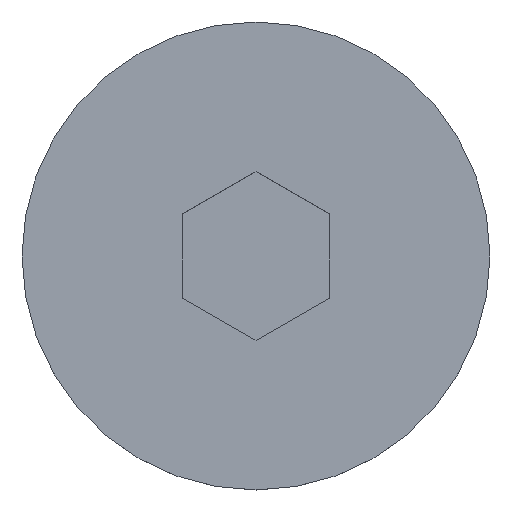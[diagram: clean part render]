
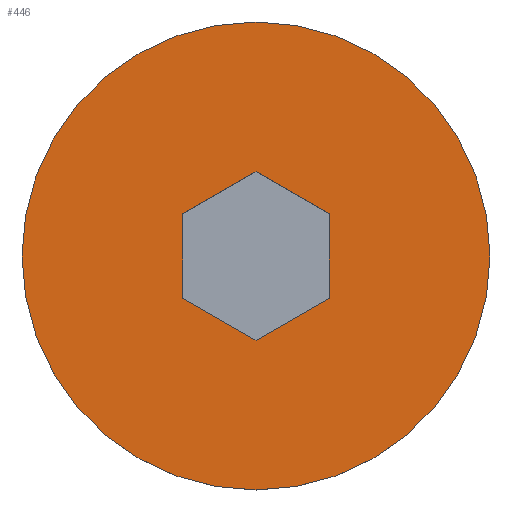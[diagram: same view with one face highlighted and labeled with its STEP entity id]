
A CAD part, top view. The second image highlights one B-rep face of the part: STEP entity #446.
In plain terms, the highlighted planar face has unit normal (0, 0, 1).
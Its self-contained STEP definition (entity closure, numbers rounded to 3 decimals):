
#6 = EDGE_CURVE ( 'NONE', #143, #197, #262, .T. ) ;
#7 = CARTESIAN_POINT ( 'NONE',  ( 0., 0., 5.22 ) ) ;
#8 = VECTOR ( 'NONE', #292, 1000. ) ;
#14 = ORIENTED_EDGE ( 'NONE', *, *, #168, .F. ) ;
#18 = FACE_BOUND ( 'NONE', #434, .T. ) ;
#34 = DIRECTION ( 'NONE',  ( -1., 0., 0. ) ) ;
#35 = CARTESIAN_POINT ( 'NONE',  ( 3., -1.732, 5.22 ) ) ;
#40 = EDGE_LOOP ( 'NONE', ( #70, #128 ) ) ;
#41 = CARTESIAN_POINT ( 'NONE',  ( 3., 1.732, 5.22 ) ) ;
#45 = ORIENTED_EDGE ( 'NONE', *, *, #190, .F. ) ;
#58 = LINE ( 'NONE', #140, #8 ) ;
#60 = VERTEX_POINT ( 'NONE', #127 ) ;
#61 = AXIS2_PLACEMENT_3D ( 'NONE', #287, #394, #274 ) ;
#70 = ORIENTED_EDGE ( 'NONE', *, *, #330, .F. ) ;
#80 = CARTESIAN_POINT ( 'NONE',  ( 3., -1.732, 5.22 ) ) ;
#83 = CARTESIAN_POINT ( 'NONE',  ( -3., -1.732, 5.22 ) ) ;
#84 = CARTESIAN_POINT ( 'NONE',  ( 9.61, 0., 5.22 ) ) ;
#92 = LINE ( 'NONE', #35, #422 ) ;
#93 = DIRECTION ( 'NONE',  ( 0.866, 0.5, 0. ) ) ;
#97 = CIRCLE ( 'NONE', #237, 9.61 ) ;
#103 = LINE ( 'NONE', #83, #380 ) ;
#118 = PLANE ( 'NONE',  #291 ) ;
#127 = CARTESIAN_POINT ( 'NONE',  ( -9.61, 0., 5.22 ) ) ;
#128 = ORIENTED_EDGE ( 'NONE', *, *, #154, .F. ) ;
#140 = CARTESIAN_POINT ( 'NONE',  ( 3., 1.732, 5.22 ) ) ;
#143 = VERTEX_POINT ( 'NONE', #363 ) ;
#154 = EDGE_CURVE ( 'NONE', #311, #60, #297, .T. ) ;
#159 = LINE ( 'NONE', #379, #432 ) ;
#168 = EDGE_CURVE ( 'NONE', #197, #419, #428, .T. ) ;
#170 = DIRECTION ( 'NONE',  ( 0., 0., 1. ) ) ;
#184 = DIRECTION ( 'NONE',  ( -0.866, -0.5, 0. ) ) ;
#186 = VECTOR ( 'NONE', #184, 1000. ) ;
#190 = EDGE_CURVE ( 'NONE', #419, #360, #103, .T. ) ;
#192 = EDGE_CURVE ( 'NONE', #383, #143, #58, .T. ) ;
#197 = VERTEX_POINT ( 'NONE', #445 ) ;
#210 = EDGE_CURVE ( 'NONE', #360, #407, #159, .T. ) ;
#213 = ORIENTED_EDGE ( 'NONE', *, *, #192, .F. ) ;
#218 = CARTESIAN_POINT ( 'NONE',  ( -3., -1.732, 5.22 ) ) ;
#237 = AXIS2_PLACEMENT_3D ( 'NONE', #7, #302, #34 ) ;
#243 = ORIENTED_EDGE ( 'NONE', *, *, #6, .F. ) ;
#247 = DIRECTION ( 'NONE',  ( 0., -1., 0. ) ) ;
#259 = EDGE_CURVE ( 'NONE', #407, #383, #92, .T. ) ;
#262 = LINE ( 'NONE', #374, #186 ) ;
#263 = ORIENTED_EDGE ( 'NONE', *, *, #259, .F. ) ;
#274 = DIRECTION ( 'NONE',  ( -1., 0., 0. ) ) ;
#280 = CARTESIAN_POINT ( 'NONE',  ( -9.61, 0., 5.22 ) ) ;
#287 = CARTESIAN_POINT ( 'NONE',  ( 0., 0., 5.22 ) ) ;
#291 = AXIS2_PLACEMENT_3D ( 'NONE', #280, #170, #404 ) ;
#292 = DIRECTION ( 'NONE',  ( -0.866, 0.5, 0. ) ) ;
#297 = CIRCLE ( 'NONE', #61, 9.61 ) ;
#302 = DIRECTION ( 'NONE',  ( 0., 0., -1. ) ) ;
#311 = VERTEX_POINT ( 'NONE', #84 ) ;
#317 = VECTOR ( 'NONE', #247, 1000. ) ;
#330 = EDGE_CURVE ( 'NONE', #60, #311, #97, .T. ) ;
#356 = DIRECTION ( 'NONE',  ( 0.866, -0.5, 0. ) ) ;
#360 = VERTEX_POINT ( 'NONE', #389 ) ;
#363 = CARTESIAN_POINT ( 'NONE',  ( 0., 3.464, 5.22 ) ) ;
#371 = FACE_OUTER_BOUND ( 'NONE', #40, .T. ) ;
#374 = CARTESIAN_POINT ( 'NONE',  ( 0., 3.464, 5.22 ) ) ;
#379 = CARTESIAN_POINT ( 'NONE',  ( 0., -3.464, 5.22 ) ) ;
#380 = VECTOR ( 'NONE', #356, 1000. ) ;
#383 = VERTEX_POINT ( 'NONE', #41 ) ;
#386 = ORIENTED_EDGE ( 'NONE', *, *, #210, .F. ) ;
#389 = CARTESIAN_POINT ( 'NONE',  ( 0., -3.464, 5.22 ) ) ;
#394 = DIRECTION ( 'NONE',  ( 0., 0., -1. ) ) ;
#402 = DIRECTION ( 'NONE',  ( 0., 1., 0. ) ) ;
#404 = DIRECTION ( 'NONE',  ( 1., 0., 0. ) ) ;
#407 = VERTEX_POINT ( 'NONE', #80 ) ;
#419 = VERTEX_POINT ( 'NONE', #218 ) ;
#422 = VECTOR ( 'NONE', #402, 1000. ) ;
#428 = LINE ( 'NONE', #435, #317 ) ;
#432 = VECTOR ( 'NONE', #93, 1000. ) ;
#434 = EDGE_LOOP ( 'NONE', ( #213, #263, #386, #45, #14, #243 ) ) ;
#435 = CARTESIAN_POINT ( 'NONE',  ( -3., 1.732, 5.22 ) ) ;
#445 = CARTESIAN_POINT ( 'NONE',  ( -3., 1.732, 5.22 ) ) ;
#446 = ADVANCED_FACE ( 'NONE', ( #18, #371 ), #118, .T. ) ;
